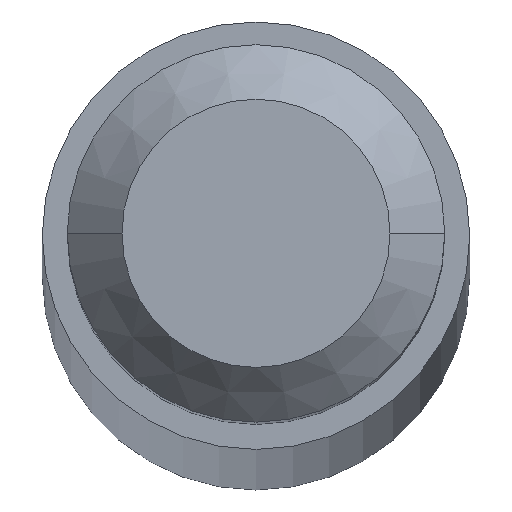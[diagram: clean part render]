
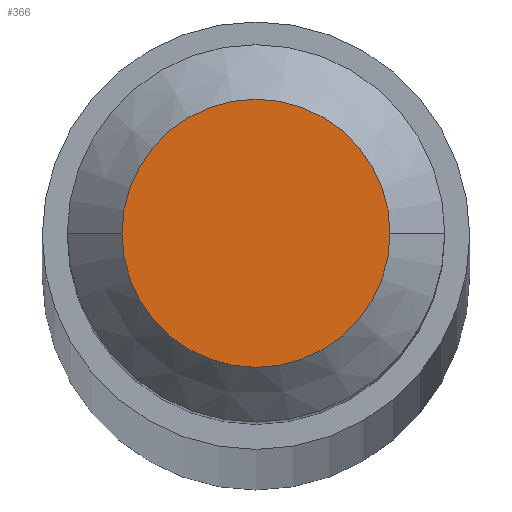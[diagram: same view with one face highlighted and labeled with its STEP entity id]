
A CAD part, top view. The second image highlights one B-rep face of the part: STEP entity #366.
In plain terms, the highlighted planar face has unit normal (0, 0, 1).
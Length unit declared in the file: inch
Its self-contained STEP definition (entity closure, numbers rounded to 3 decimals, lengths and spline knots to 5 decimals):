
#7 = FACE_OUTER_BOUND ( 'NONE', #212, .T. ) ;
#29 = CARTESIAN_POINT ( 'NONE',  ( 0., 0., 4.75 ) ) ;
#33 = DIRECTION ( 'NONE',  ( -1., 0., 0. ) ) ;
#48 = EDGE_CURVE ( 'NONE', #146, #329, #165, .T. ) ;
#52 = DIRECTION ( 'NONE',  ( -1., 0., 0. ) ) ;
#72 = CARTESIAN_POINT ( 'NONE',  ( -0.049, 0., 4.75 ) ) ;
#96 = DIRECTION ( 'NONE',  ( 0., 0., 1. ) ) ;
#142 = CARTESIAN_POINT ( 'NONE',  ( 0., 0., 4.75 ) ) ;
#146 = VERTEX_POINT ( 'NONE', #72 ) ;
#150 = DIRECTION ( 'NONE',  ( 1., 0., 0. ) ) ;
#153 = AXIS2_PLACEMENT_3D ( 'NONE', #244, #339, #33 ) ;
#165 = CIRCLE ( 'NONE', #153, 0.049 ) ;
#186 = PLANE ( 'NONE',  #310 ) ;
#190 = ORIENTED_EDGE ( 'NONE', *, *, #305, .F. ) ;
#212 = EDGE_LOOP ( 'NONE', ( #324, #190 ) ) ;
#222 = AXIS2_PLACEMENT_3D ( 'NONE', #142, #297, #52 ) ;
#240 = CIRCLE ( 'NONE', #222, 0.049 ) ;
#244 = CARTESIAN_POINT ( 'NONE',  ( 0., 0., 4.75 ) ) ;
#297 = DIRECTION ( 'NONE',  ( 0., 0., -1. ) ) ;
#305 = EDGE_CURVE ( 'NONE', #329, #146, #240, .T. ) ;
#310 = AXIS2_PLACEMENT_3D ( 'NONE', #29, #96, #150 ) ;
#324 = ORIENTED_EDGE ( 'NONE', *, *, #48, .F. ) ;
#329 = VERTEX_POINT ( 'NONE', #356 ) ;
#339 = DIRECTION ( 'NONE',  ( 0., 0., -1. ) ) ;
#356 = CARTESIAN_POINT ( 'NONE',  ( 0.049, 0., 4.75 ) ) ;
#366 = ADVANCED_FACE ( 'NONE', ( #7 ), #186, .T. ) ;
